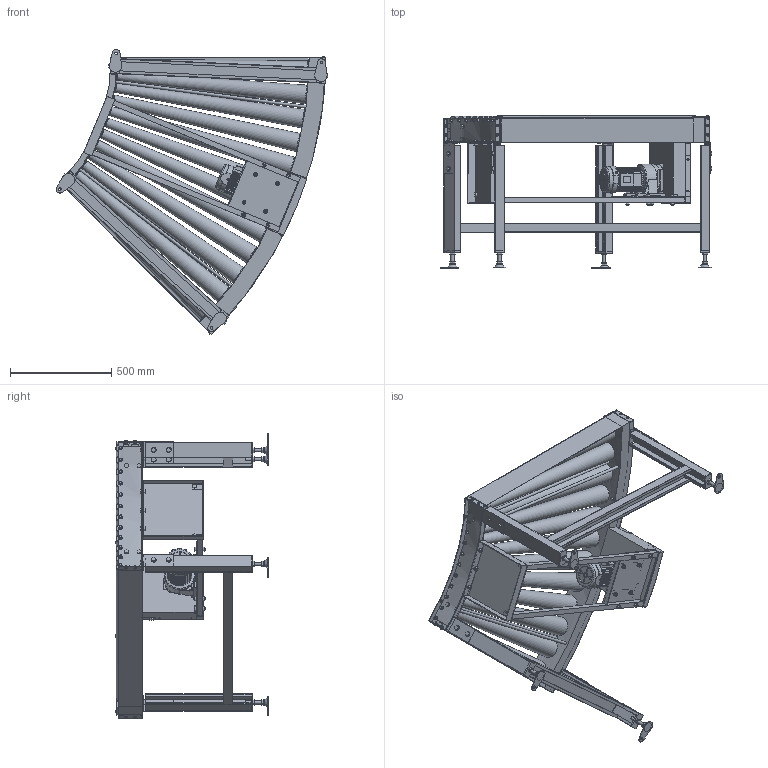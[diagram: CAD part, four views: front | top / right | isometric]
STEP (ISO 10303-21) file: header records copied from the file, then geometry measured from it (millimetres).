
FILE_DESCRIPTION( (''), '2;1');
FILE_NAME ('WEB-MCC3-45-1000-75-45°-L.stp','2025-07-18T07:47:47',(''),(''),'spGate 20.6.2 (****-****-****-****)','','');
FILE_SCHEMA (('AUTOMOTIVE_DESIGN'));
Length unit declared in the file: millimetre
Products named in the file (22): WEB-MCC3-45-1000-75-45_-L; TEMP_X_T-prt0; TEMP_X_T-prt1; TEMP_X_T-prt2; TEMP_X_T-prt3; TEMP_X_T-prt4; TEMP_X_T-prt5; TEMP_X_T-prt6; TEMP_X_T-prt7; TEMP_X_T-prt8; TEMP_X_T-prt9; TEMP_X_T-prt10; TEMP_X_T-prt11; TEMP_X_T-prt12; TEMP_X_T-prt13; TEMP_X_T-prt14; TEMP_X_T-prt15; TEMP_X_T-prt16; TEMP_X_T-prt17; TEMP_X_T-prt18; TEMP_X_T-prt19; TEMP_X_T-prt20
Assembly tree (21 placements, depth 2):
  WEB-MCC3-45-1000-75-45_-L
    TEMP_X_T-prt0
    TEMP_X_T-prt1
    TEMP_X_T-prt2
    TEMP_X_T-prt3
    TEMP_X_T-prt4
    TEMP_X_T-prt5
    TEMP_X_T-prt6
    TEMP_X_T-prt7
    TEMP_X_T-prt8
    TEMP_X_T-prt9
    TEMP_X_T-prt10
    TEMP_X_T-prt11
    TEMP_X_T-prt12
    TEMP_X_T-prt13
    TEMP_X_T-prt14
    TEMP_X_T-prt15
    TEMP_X_T-prt16
    TEMP_X_T-prt17
    TEMP_X_T-prt18
    TEMP_X_T-prt19
    TEMP_X_T-prt20
Bounding box: 1343.11 x 751 x 1407.44 mm (x, y, z)
Volume: 69750591.8 mm3; surface area: 7251690 mm2
Topology: 21 solids, 22 shells, 2674 faces, 6873 edges, 4559 vertices
Faces by surface type: plane 2058, cylinder 529, bspline 87
Full cylindrical faces by diameter (mm): 5 x4, 6 x20, 7 x8, 8 x5, 9.2 x4, 10 x46, 10.5 x4, 12 x14, 12.2 x12, 13 x12, 13.8 x12, 15 x1, 15.4 x20, 16 x16, 17.3 x12, 18 x16, 18.4 x24, 21 x4, 21.5 x1, 24 x8, 28 x13, 31 x1, 63 x1, 113.2 x1, 153 x1
Entity records: 144758 total; most frequent: CARTESIAN_POINT 23209, ORIENTED_EDGE 13744, DIRECTION 13398, COLOUR_RGB 9567, PRESENTATION_STYLE_ASSIGNMENT 9567, STYLED_ITEM 9567, EDGE_CURVE 6872, DRAUGHTING_PRE_DEFINED_CURVE_FONT 6872
